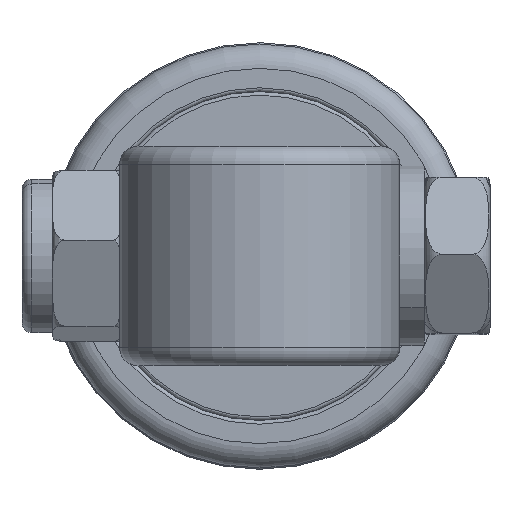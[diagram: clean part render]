
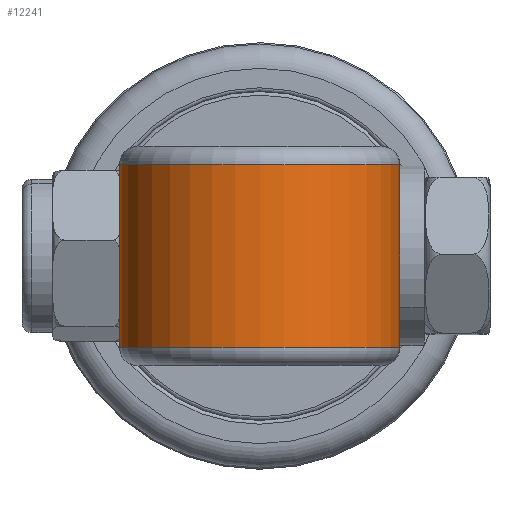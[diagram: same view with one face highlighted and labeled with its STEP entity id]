
A CAD part, front view. The second image highlights one B-rep face of the part: STEP entity #12241.
In plain terms, the highlighted cylindrical face has radius 11.5 mm (diameter 23 mm), a partial arc.
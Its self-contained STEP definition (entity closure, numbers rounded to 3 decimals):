
#753 = VECTOR ( 'NONE', #3835, 1000. ) ;
#2050 = AXIS2_PLACEMENT_3D ( 'NONE', #13623, #13864, #15263 ) ;
#3835 = DIRECTION ( 'NONE',  ( 0., 0., -1. ) ) ;
#3880 = CARTESIAN_POINT ( 'NONE',  ( -11.5, 0., 9. ) ) ;
#5515 = DIRECTION ( 'NONE',  ( 1., 0., 0. ) ) ;
#5641 = DIRECTION ( 'NONE',  ( 0., 0., 1. ) ) ;
#5684 = CARTESIAN_POINT ( 'NONE',  ( 0., 0., -7.5 ) ) ;
#7554 = EDGE_CURVE ( 'NONE', #26745, #17854, #8005, .T. ) ;
#8005 = LINE ( 'NONE', #22070, #21870 ) ;
#8211 = EDGE_LOOP ( 'NONE', ( #30382, #9596, #15027, #30229 ) ) ;
#9596 = ORIENTED_EDGE ( 'NONE', *, *, #22718, .T. ) ;
#9796 = CARTESIAN_POINT ( 'NONE',  ( 11.5, 0., -7.5 ) ) ;
#10032 = CIRCLE ( 'NONE', #34381, 11.5 ) ;
#12241 = ADVANCED_FACE ( 'NONE', ( #32216 ), #31411, .T. ) ;
#13623 = CARTESIAN_POINT ( 'NONE',  ( 0., 0., 9. ) ) ;
#13864 = DIRECTION ( 'NONE',  ( 0., 0., -1. ) ) ;
#13980 = AXIS2_PLACEMENT_3D ( 'NONE', #25795, #25599, #25515 ) ;
#14984 = CARTESIAN_POINT ( 'NONE',  ( -11.5, 0., 7.5 ) ) ;
#15027 = ORIENTED_EDGE ( 'NONE', *, *, #22568, .T. ) ;
#15263 = DIRECTION ( 'NONE',  ( -1., 0., 0. ) ) ;
#17854 = VERTEX_POINT ( 'NONE', #9796 ) ;
#18214 = CARTESIAN_POINT ( 'NONE',  ( 11.5, 0., 7.5 ) ) ;
#21870 = VECTOR ( 'NONE', #22099, 1000. ) ;
#21973 = VERTEX_POINT ( 'NONE', #29650 ) ;
#22070 = CARTESIAN_POINT ( 'NONE',  ( 11.5, 0., 9. ) ) ;
#22099 = DIRECTION ( 'NONE',  ( 0., 0., -1. ) ) ;
#22521 = EDGE_CURVE ( 'NONE', #21973, #17854, #10032, .T. ) ;
#22568 = EDGE_CURVE ( 'NONE', #33015, #21973, #30005, .T. ) ;
#22718 = EDGE_CURVE ( 'NONE', #26745, #33015, #28302, .T. ) ;
#25515 = DIRECTION ( 'NONE',  ( 1., 0., 0. ) ) ;
#25599 = DIRECTION ( 'NONE',  ( 0., 0., -1. ) ) ;
#25795 = CARTESIAN_POINT ( 'NONE',  ( 0., 0., 7.5 ) ) ;
#26745 = VERTEX_POINT ( 'NONE', #18214 ) ;
#28302 = CIRCLE ( 'NONE', #13980, 11.5 ) ;
#29650 = CARTESIAN_POINT ( 'NONE',  ( -11.5, 0., -7.5 ) ) ;
#30005 = LINE ( 'NONE', #3880, #753 ) ;
#30229 = ORIENTED_EDGE ( 'NONE', *, *, #22521, .T. ) ;
#30382 = ORIENTED_EDGE ( 'NONE', *, *, #7554, .F. ) ;
#31411 = CYLINDRICAL_SURFACE ( 'NONE', #2050, 11.5 ) ;
#32216 = FACE_OUTER_BOUND ( 'NONE', #8211, .T. ) ;
#33015 = VERTEX_POINT ( 'NONE', #14984 ) ;
#34381 = AXIS2_PLACEMENT_3D ( 'NONE', #5684, #5641, #5515 ) ;
